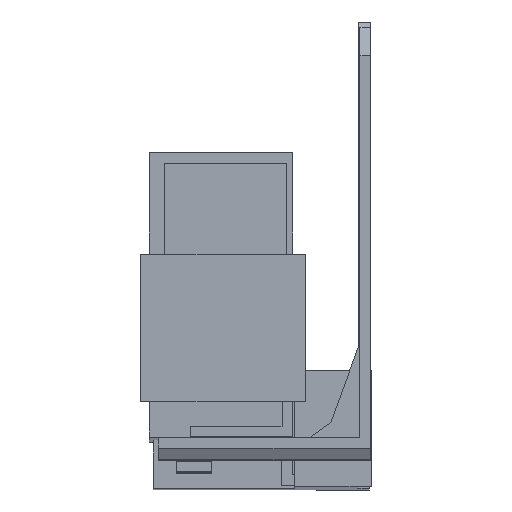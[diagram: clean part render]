
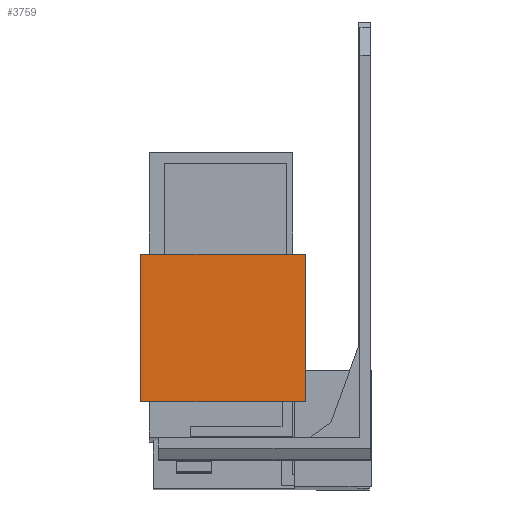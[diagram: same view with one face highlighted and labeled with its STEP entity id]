
A CAD part, front view. The second image highlights one B-rep face of the part: STEP entity #3759.
In plain terms, the highlighted planar face has unit normal (0, -1, 0.003).
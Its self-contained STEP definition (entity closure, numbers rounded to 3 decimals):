
#178 = CARTESIAN_POINT ( 'NONE',  ( -9.3, -29.009, -40.322 ) ) ;
#356 = PLANE ( 'NONE',  #3365 ) ;
#359 = CARTESIAN_POINT ( 'NONE',  ( -9.3, -29.009, -40.322 ) ) ;
#366 = DIRECTION ( 'NONE',  ( 0., -1., 0.003 ) ) ;
#367 = DIRECTION ( 'NONE',  ( 1., 0., 0. ) ) ;
#478 = CARTESIAN_POINT ( 'NONE',  ( -32.7, -29.009, -40.322 ) ) ;
#706 = CARTESIAN_POINT ( 'NONE',  ( -9.3, -28.952, -19.322 ) ) ;
#711 = CARTESIAN_POINT ( 'NONE',  ( -32.7, -28.952, -19.322 ) ) ;
#1432 = CARTESIAN_POINT ( 'NONE',  ( -32.7, -29.009, -40.322 ) ) ;
#1433 = DIRECTION ( 'NONE',  ( 0., 0.003, 1. ) ) ;
#1540 = CARTESIAN_POINT ( 'NONE',  ( -9.3, -29.009, -40.322 ) ) ;
#1541 = DIRECTION ( 'NONE',  ( -1., 0., 0. ) ) ;
#1665 = CARTESIAN_POINT ( 'NONE',  ( -9.3, -29.009, -40.322 ) ) ;
#1666 = DIRECTION ( 'NONE',  ( 0., 0.003, 1. ) ) ;
#1862 = CARTESIAN_POINT ( 'NONE',  ( -9.3, -28.952, -19.322 ) ) ;
#1863 = DIRECTION ( 'NONE',  ( -1., 0., 0. ) ) ;
#2491 = ORIENTED_EDGE ( 'NONE', *, *, #3371, .T. ) ;
#2706 = EDGE_LOOP ( 'NONE', ( #2919, #2898, #2873, #2491 ) ) ;
#2873 = ORIENTED_EDGE ( 'NONE', *, *, #3290, .F. ) ;
#2898 = ORIENTED_EDGE ( 'NONE', *, *, #3202, .F. ) ;
#2919 = ORIENTED_EDGE ( 'NONE', *, *, #3505, .T. ) ;
#3202 = EDGE_CURVE ( 'NONE', #4630, #4932, #4321, .T. ) ;
#3290 = EDGE_CURVE ( 'NONE', #3677, #4630, #4498, .T. ) ;
#3365 = AXIS2_PLACEMENT_3D ( 'NONE', #359, #366, #367 ) ;
#3371 = EDGE_CURVE ( 'NONE', #3677, #4927, #3898, .T. ) ;
#3505 = EDGE_CURVE ( 'NONE', #4927, #4932, #4075, .T. ) ;
#3677 = VERTEX_POINT ( 'NONE', #178 ) ;
#3759 = ADVANCED_FACE ( 'NONE', ( #3843 ), #356, .T. ) ;
#3843 = FACE_OUTER_BOUND ( 'NONE', #2706, .T. ) ;
#3898 = LINE ( 'NONE', #1665, #3899 ) ;
#3899 = VECTOR ( 'NONE', #1666, 1000. ) ;
#4075 = LINE ( 'NONE', #1862, #4078 ) ;
#4078 = VECTOR ( 'NONE', #1863, 1000. ) ;
#4320 = VECTOR ( 'NONE', #1433, 1000. ) ;
#4321 = LINE ( 'NONE', #1432, #4320 ) ;
#4491 = VECTOR ( 'NONE', #1541, 1000. ) ;
#4498 = LINE ( 'NONE', #1540, #4491 ) ;
#4630 = VERTEX_POINT ( 'NONE', #478 ) ;
#4927 = VERTEX_POINT ( 'NONE', #706 ) ;
#4932 = VERTEX_POINT ( 'NONE', #711 ) ;
